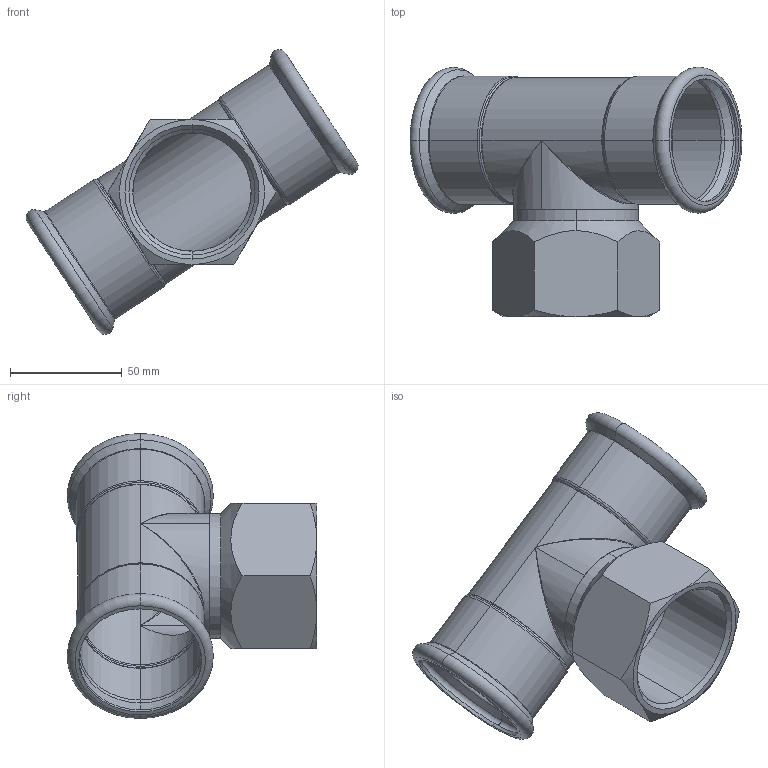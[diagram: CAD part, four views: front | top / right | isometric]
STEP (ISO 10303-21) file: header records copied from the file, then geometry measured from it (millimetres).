
FILE_DESCRIPTION (( 'STEP AP203' ), '1' );
FILE_NAME ('GDA5455.STEP', '2019-01-14T01:25:57', ( '' ), ( '' ), 'SwSTEP 2.0', 'SolidWorks 2015', '' );
FILE_SCHEMA (( 'CONFIG_CONTROL_DESIGN' ));
Length unit declared in the file: millimetre
Products named in the file (3): GDA5455; ITC-I-03-54℅2; T(R)-¢ñ-54¡Á54''
Assembly tree (2 placements, depth 2):
  GDA5455
    ITC-I-03-54℅2
    T(R)-¢ñ-54¡Á54''
Bounding box: 148.59 x 111.69 x 127.54 mm (x, y, z)
Volume: 85470.3 mm3; surface area: 71448 mm2
Topology: 2 solids, 2 shells, 104 faces, 219 edges, 114 vertices
Faces by surface type: torus 32, cone 28, cylinder 28, plane 13, bspline 3
Entity records: 3465 total; most frequent: CARTESIAN_POINT 964, DIRECTION 526, ORIENTED_EDGE 426, AXIS2_PLACEMENT_3D 234, EDGE_CURVE 213, CIRCLE 128, VERTEX_POINT 114, EDGE_LOOP 111
